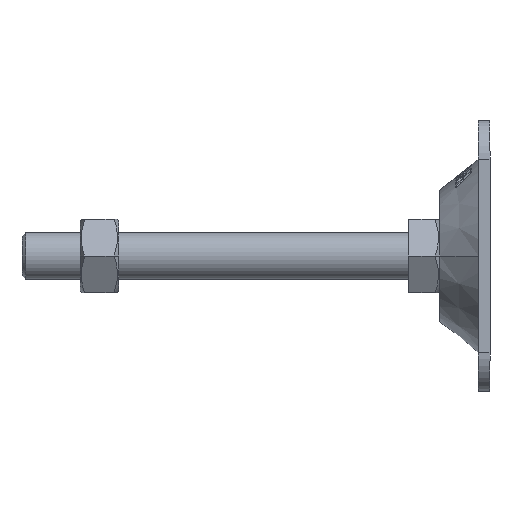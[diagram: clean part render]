
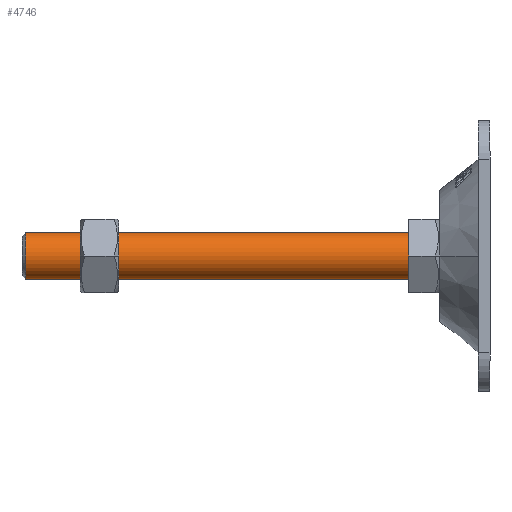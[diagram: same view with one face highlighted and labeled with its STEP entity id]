
A CAD part, left-side view. The second image highlights one B-rep face of the part: STEP entity #4746.
In plain terms, the highlighted cylindrical face has radius 6 mm (diameter 12 mm), a partial arc.
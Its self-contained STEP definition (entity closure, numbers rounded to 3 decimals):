
#157 = LINE ( 'NONE', #2030, #2290 ) ;
#431 = CARTESIAN_POINT ( 'NONE',  ( 0., 107., 0. ) ) ;
#506 = ORIENTED_EDGE ( 'NONE', *, *, #5937, .T. ) ;
#649 = ORIENTED_EDGE ( 'NONE', *, *, #1573, .F. ) ;
#1031 = CYLINDRICAL_SURFACE ( 'NONE', #2481, 6. ) ;
#1066 = DIRECTION ( 'NONE',  ( 0., 0., -1. ) ) ;
#1203 = EDGE_CURVE ( 'NONE', #5783, #4606, #1493, .T. ) ;
#1284 = EDGE_LOOP ( 'NONE', ( #649, #506, #2159, #2422 ) ) ;
#1425 = CARTESIAN_POINT ( 'NONE',  ( 0., 8., 6. ) ) ;
#1493 = CIRCLE ( 'NONE', #4836, 6. ) ;
#1544 = CARTESIAN_POINT ( 'NONE',  ( 0., 6., 0. ) ) ;
#1573 = EDGE_CURVE ( 'NONE', #3612, #4606, #3982, .T. ) ;
#1656 = DIRECTION ( 'NONE',  ( 0., 0., 1. ) ) ;
#1777 = DIRECTION ( 'NONE',  ( 0., 0., -1. ) ) ;
#1930 = DIRECTION ( 'NONE',  ( 0., -1., 0. ) ) ;
#2030 = CARTESIAN_POINT ( 'NONE',  ( 0., 6., -6. ) ) ;
#2041 = VERTEX_POINT ( 'NONE', #5446 ) ;
#2159 = ORIENTED_EDGE ( 'NONE', *, *, #3499, .T. ) ;
#2183 = DIRECTION ( 'NONE',  ( 0., -1., 0. ) ) ;
#2247 = DIRECTION ( 'NONE',  ( 0., -1., 0. ) ) ;
#2290 = VECTOR ( 'NONE', #3361, 1000. ) ;
#2422 = ORIENTED_EDGE ( 'NONE', *, *, #1203, .T. ) ;
#2481 = AXIS2_PLACEMENT_3D ( 'NONE', #1544, #1930, #1066 ) ;
#2542 = CARTESIAN_POINT ( 'NONE',  ( 0., 8., -6. ) ) ;
#2581 = CARTESIAN_POINT ( 'NONE',  ( 0., 8., 0. ) ) ;
#3361 = DIRECTION ( 'NONE',  ( 0., -1., 0. ) ) ;
#3499 = EDGE_CURVE ( 'NONE', #2041, #5783, #157, .T. ) ;
#3612 = VERTEX_POINT ( 'NONE', #4122 ) ;
#3816 = FACE_OUTER_BOUND ( 'NONE', #1284, .T. ) ;
#3982 = LINE ( 'NONE', #5889, #5779 ) ;
#4026 = DIRECTION ( 'NONE',  ( 0., 1., 0. ) ) ;
#4122 = CARTESIAN_POINT ( 'NONE',  ( 0., 107., 6. ) ) ;
#4312 = CIRCLE ( 'NONE', #4608, 6. ) ;
#4606 = VERTEX_POINT ( 'NONE', #1425 ) ;
#4608 = AXIS2_PLACEMENT_3D ( 'NONE', #431, #2247, #1777 ) ;
#4746 = ADVANCED_FACE ( 'NONE', ( #3816 ), #1031, .T. ) ;
#4836 = AXIS2_PLACEMENT_3D ( 'NONE', #2581, #4026, #1656 ) ;
#5446 = CARTESIAN_POINT ( 'NONE',  ( 0., 107., -6. ) ) ;
#5779 = VECTOR ( 'NONE', #2183, 1000. ) ;
#5783 = VERTEX_POINT ( 'NONE', #2542 ) ;
#5889 = CARTESIAN_POINT ( 'NONE',  ( 0., 6., 6. ) ) ;
#5937 = EDGE_CURVE ( 'NONE', #3612, #2041, #4312, .T. ) ;
